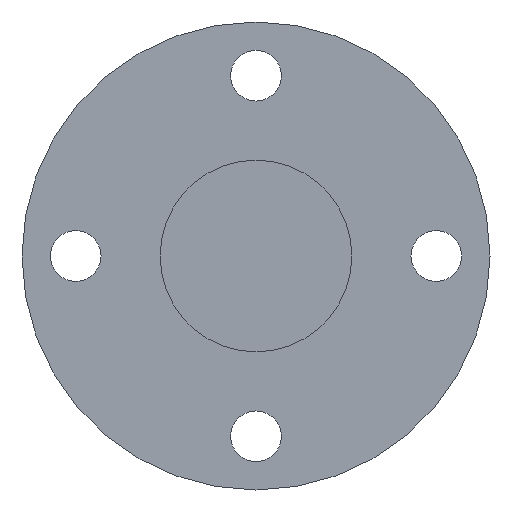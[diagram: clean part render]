
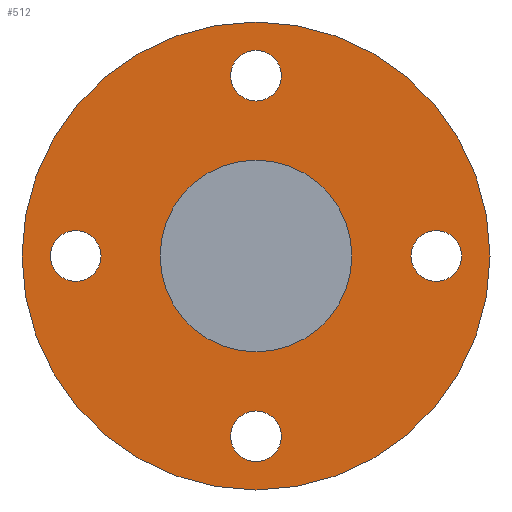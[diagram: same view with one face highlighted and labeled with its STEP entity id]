
A CAD part, left-side view. The second image highlights one B-rep face of the part: STEP entity #512.
In plain terms, the highlighted planar face has unit normal (-1, 0, 0).
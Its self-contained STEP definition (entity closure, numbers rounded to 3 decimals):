
#401=CARTESIAN_POINT('',(125.0,23.5,-3.3));
#402=VERTEX_POINT('',#401);
#403=CARTESIAN_POINT('',(125.0,23.5,0.));
#404=DIRECTION('',(1.0,0.0,0.0));
#405=DIRECTION('',(0.0,0.0,-1.0));
#406=AXIS2_PLACEMENT_3D('',#403,#404,#405);
#407=CIRCLE('',#406,3.3);
#408=EDGE_CURVE('',#402,#402,#407,.T.);
#421=CARTESIAN_POINT('',(125.0,-3.3,-23.5));
#422=VERTEX_POINT('',#421);
#423=CARTESIAN_POINT('',(125.0,0.,-23.5));
#424=DIRECTION('',(1.0,0.0,0.0));
#425=DIRECTION('',(0.0,-1.0,0.0));
#426=AXIS2_PLACEMENT_3D('',#423,#424,#425);
#427=CIRCLE('',#426,3.3);
#428=EDGE_CURVE('',#422,#422,#427,.T.);
#441=CARTESIAN_POINT('',(125.0,-23.5,3.3));
#442=VERTEX_POINT('',#441);
#443=CARTESIAN_POINT('',(125.0,-23.5,0.));
#444=DIRECTION('',(1.0,0.0,0.0));
#445=DIRECTION('',(0.0,0.0,1.0));
#446=AXIS2_PLACEMENT_3D('',#443,#444,#445);
#447=CIRCLE('',#446,3.3);
#448=EDGE_CURVE('',#442,#442,#447,.T.);
#461=CARTESIAN_POINT('',(125.0,3.3,23.5));
#462=VERTEX_POINT('',#461);
#463=CARTESIAN_POINT('',(125.0,0.0,23.5));
#464=DIRECTION('',(1.0,0.0,0.0));
#465=DIRECTION('',(0.0,1.0,0.0));
#466=AXIS2_PLACEMENT_3D('',#463,#464,#465);
#467=CIRCLE('',#466,3.3);
#468=EDGE_CURVE('',#462,#462,#467,.T.);
#473=CARTESIAN_POINT('',(125.0,0.0,21.5));
#474=DIRECTION('',(-1.0,0.0,0.0));
#475=DIRECTION('',(0.0,0.0,1.0));
#476=AXIS2_PLACEMENT_3D('',#473,#474,#475);
#477=PLANE('',#476);
#478=CARTESIAN_POINT('',(125.0,0.0,30.5));
#479=VERTEX_POINT('',#478);
#480=CARTESIAN_POINT('',(125.0,0.0,0.0));
#481=DIRECTION('',(-1.0,0.0,0.0));
#482=DIRECTION('',(0.0,0.0,1.0));
#483=AXIS2_PLACEMENT_3D('',#480,#481,#482);
#484=CIRCLE('',#483,30.5);
#485=EDGE_CURVE('',#479,#479,#484,.T.);
#486=ORIENTED_EDGE('',*,*,#485,.T.);
#487=EDGE_LOOP('',(#486));
#488=FACE_OUTER_BOUND('',#487,.T.);
#489=ORIENTED_EDGE('',*,*,#408,.T.);
#490=EDGE_LOOP('',(#489));
#491=FACE_BOUND('',#490,.T.);
#492=ORIENTED_EDGE('',*,*,#428,.T.);
#493=EDGE_LOOP('',(#492));
#494=FACE_BOUND('',#493,.T.);
#495=ORIENTED_EDGE('',*,*,#448,.T.);
#496=EDGE_LOOP('',(#495));
#497=FACE_BOUND('',#496,.T.);
#498=ORIENTED_EDGE('',*,*,#468,.T.);
#499=EDGE_LOOP('',(#498));
#500=FACE_BOUND('',#499,.T.);
#501=CARTESIAN_POINT('',(125.0,0.0,12.5));
#502=VERTEX_POINT('',#501);
#503=CARTESIAN_POINT('',(125.0,0.0,0.0));
#504=DIRECTION('',(-1.0,0.0,0.0));
#505=DIRECTION('',(0.0,0.0,1.0));
#506=AXIS2_PLACEMENT_3D('',#503,#504,#505);
#507=CIRCLE('',#506,12.5);
#508=EDGE_CURVE('',#502,#502,#507,.T.);
#509=ORIENTED_EDGE('',*,*,#508,.F.);
#510=EDGE_LOOP('',(#509));
#511=FACE_BOUND('',#510,.T.);
#512=ADVANCED_FACE('',(#488,#491,#494,#497,#500,#511),#477,.T.);
